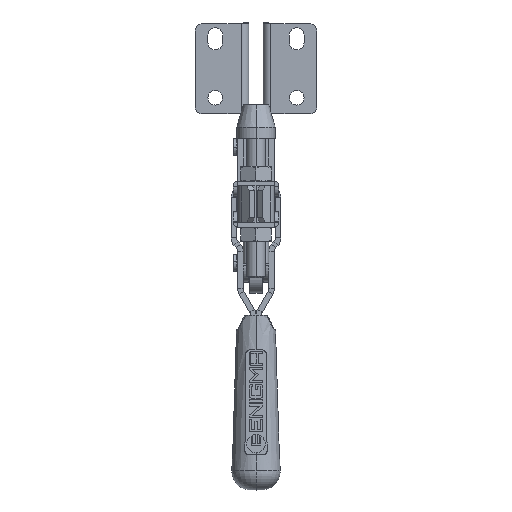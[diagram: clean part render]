
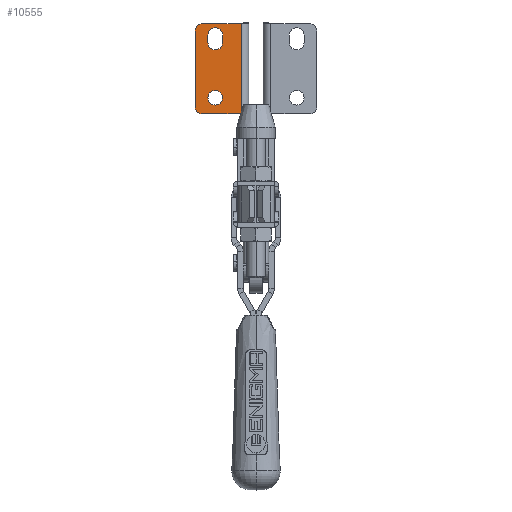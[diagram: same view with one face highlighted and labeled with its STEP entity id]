
A CAD part, left-side view. The second image highlights one B-rep face of the part: STEP entity #10555.
In plain terms, the highlighted planar face has unit normal (-1, 0, 0) as drawn and (0, 0, 1) by its records, which use the part's own axes.
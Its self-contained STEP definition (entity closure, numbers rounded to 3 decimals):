
#99 = CARTESIAN_POINT ( 'NONE',  ( -4., 22.144, -24.6 ) ) ;
#214 = DIRECTION ( 'NONE',  ( 0., 1., 0. ) ) ;
#1074 = CARTESIAN_POINT ( 'NONE',  ( 34.8, 15.144, -24.6 ) ) ;
#1305 = VERTEX_POINT ( 'NONE', #29567 ) ;
#1386 = DIRECTION ( 'NONE',  ( 0., 0., -1. ) ) ;
#1966 = CIRCLE ( 'NONE', #16958, 4. ) ;
#2103 = LINE ( 'NONE', #99, #16761 ) ;
#2202 = VERTEX_POINT ( 'NONE', #10442 ) ;
#2275 = FACE_OUTER_BOUND ( 'NONE', #24023, .T. ) ;
#2363 = LINE ( 'NONE', #11606, #15462 ) ;
#2581 = CIRCLE ( 'NONE', #3531, 4. ) ;
#3370 = DIRECTION ( 'NONE',  ( -1., 0., 0. ) ) ;
#3407 = DIRECTION ( 'NONE',  ( 0., -1., 0. ) ) ;
#3531 = AXIS2_PLACEMENT_3D ( 'NONE', #10164, #5645, #7896 ) ;
#3569 = CIRCLE ( 'NONE', #28829, 4. ) ;
#3602 = EDGE_LOOP ( 'NONE', ( #27143, #20244 ) ) ;
#4226 = CIRCLE ( 'NONE', #18759, 4. ) ;
#4270 = VERTEX_POINT ( 'NONE', #11280 ) ;
#5070 = CARTESIAN_POINT ( 'NONE',  ( 0., 26.144, -24.6 ) ) ;
#5086 = VERTEX_POINT ( 'NONE', #28017 ) ;
#5388 = ORIENTED_EDGE ( 'NONE', *, *, #21823, .F. ) ;
#5593 = AXIS2_PLACEMENT_3D ( 'NONE', #24017, #19420, #28710 ) ;
#5631 = ORIENTED_EDGE ( 'NONE', *, *, #24451, .T. ) ;
#5645 = DIRECTION ( 'NONE',  ( 0., 0., -1. ) ) ;
#5733 = DIRECTION ( 'NONE',  ( 1., 0., 0. ) ) ;
#6894 = LINE ( 'NONE', #5070, #9750 ) ;
#6992 = AXIS2_PLACEMENT_3D ( 'NONE', #7814, #16759, #3407 ) ;
#7028 = ORIENTED_EDGE ( 'NONE', *, *, #16288, .F. ) ;
#7814 = CARTESIAN_POINT ( 'NONE',  ( 41., 22.144, -24.6 ) ) ;
#7896 = DIRECTION ( 'NONE',  ( 0., 1., 0. ) ) ;
#8350 = EDGE_CURVE ( 'NONE', #5086, #19004, #4226, .T. ) ;
#8545 = VERTEX_POINT ( 'NONE', #22049 ) ;
#8634 = ORIENTED_EDGE ( 'NONE', *, *, #16687, .T. ) ;
#9703 = CARTESIAN_POINT ( 'NONE',  ( 45., 1., -24.6 ) ) ;
#9750 = VECTOR ( 'NONE', #14134, 1000. ) ;
#10164 = CARTESIAN_POINT ( 'NONE',  ( 0., 22.144, -24.6 ) ) ;
#10175 = EDGE_CURVE ( 'NONE', #8545, #29382, #6894, .T. ) ;
#10351 = EDGE_CURVE ( 'NONE', #20643, #4270, #10415, .T. ) ;
#10415 = CIRCLE ( 'NONE', #5593, 4. ) ;
#10442 = CARTESIAN_POINT ( 'NONE',  ( -4., 1., -24.6 ) ) ;
#10555 = ADVANCED_FACE ( 'NONE', ( #2275, #11521, #11971 ), #21192, .F. ) ;
#10859 = EDGE_CURVE ( 'NONE', #29382, #29272, #15621, .T. ) ;
#11099 = EDGE_CURVE ( 'NONE', #15795, #8545, #2581, .T. ) ;
#11128 = ORIENTED_EDGE ( 'NONE', *, *, #10175, .F. ) ;
#11280 = CARTESIAN_POINT ( 'NONE',  ( 38.8, 11.144, -24.6 ) ) ;
#11515 = DIRECTION ( 'NONE',  ( 0., 1., 0. ) ) ;
#11521 = FACE_BOUND ( 'NONE', #3602, .T. ) ;
#11606 = CARTESIAN_POINT ( 'NONE',  ( 34.8, 11.144, -24.6 ) ) ;
#11966 = ORIENTED_EDGE ( 'NONE', *, *, #10351, .T. ) ;
#11971 = FACE_BOUND ( 'NONE', #18572, .T. ) ;
#12243 = CARTESIAN_POINT ( 'NONE',  ( 34.8, 19.144, -24.6 ) ) ;
#12386 = CARTESIAN_POINT ( 'NONE',  ( 34.8, 19.144, -24.6 ) ) ;
#12498 = VERTEX_POINT ( 'NONE', #12243 ) ;
#13511 = VECTOR ( 'NONE', #5733, 1000. ) ;
#14134 = DIRECTION ( 'NONE',  ( 1., 0., 0. ) ) ;
#14498 = DIRECTION ( 'NONE',  ( 0., 1., 0. ) ) ;
#14554 = ORIENTED_EDGE ( 'NONE', *, *, #14974, .T. ) ;
#14651 = DIRECTION ( 'NONE',  ( 0., 0., -1. ) ) ;
#14894 = LINE ( 'NONE', #24161, #26298 ) ;
#14974 = EDGE_CURVE ( 'NONE', #12498, #20643, #28783, .T. ) ;
#15462 = VECTOR ( 'NONE', #16176, 1000. ) ;
#15621 = CIRCLE ( 'NONE', #6992, 4. ) ;
#15795 = VERTEX_POINT ( 'NONE', #26568 ) ;
#16176 = DIRECTION ( 'NONE',  ( -1., 0., 0. ) ) ;
#16288 = EDGE_CURVE ( 'NONE', #29272, #26149, #25167, .T. ) ;
#16687 = EDGE_CURVE ( 'NONE', #4270, #1305, #2363, .T. ) ;
#16759 = DIRECTION ( 'NONE',  ( 0., 0., -1. ) ) ;
#16761 = VECTOR ( 'NONE', #11515, 1000. ) ;
#16958 = AXIS2_PLACEMENT_3D ( 'NONE', #28495, #14651, #14498 ) ;
#16982 = CARTESIAN_POINT ( 'NONE',  ( 45., 22.144, -24.6 ) ) ;
#17802 = EDGE_CURVE ( 'NONE', #19004, #5086, #1966, .T. ) ;
#17849 = ORIENTED_EDGE ( 'NONE', *, *, #10859, .F. ) ;
#18572 = EDGE_LOOP ( 'NONE', ( #8634, #5631, #14554, #11966 ) ) ;
#18759 = AXIS2_PLACEMENT_3D ( 'NONE', #25721, #20990, #214 ) ;
#19004 = VERTEX_POINT ( 'NONE', #20620 ) ;
#19420 = DIRECTION ( 'NONE',  ( 0., 0., -1. ) ) ;
#19564 = CARTESIAN_POINT ( 'NONE',  ( 41., 26.144, -24.6 ) ) ;
#19791 = CARTESIAN_POINT ( 'NONE',  ( 38.8, 19.144, -24.6 ) ) ;
#20244 = ORIENTED_EDGE ( 'NONE', *, *, #8350, .T. ) ;
#20620 = CARTESIAN_POINT ( 'NONE',  ( 4.8, 19.144, -24.6 ) ) ;
#20643 = VERTEX_POINT ( 'NONE', #19791 ) ;
#20990 = DIRECTION ( 'NONE',  ( 0., 0., -1. ) ) ;
#21165 = ORIENTED_EDGE ( 'NONE', *, *, #27408, .F. ) ;
#21192 = PLANE ( 'NONE',  #29257 ) ;
#21823 = EDGE_CURVE ( 'NONE', #26149, #2202, #14894, .T. ) ;
#22049 = CARTESIAN_POINT ( 'NONE',  ( 0., 26.144, -24.6 ) ) ;
#22258 = ORIENTED_EDGE ( 'NONE', *, *, #11099, .F. ) ;
#22736 = DIRECTION ( 'NONE',  ( 0., -1., 0. ) ) ;
#23321 = CARTESIAN_POINT ( 'NONE',  ( 45., -2.675, -24.6 ) ) ;
#24017 = CARTESIAN_POINT ( 'NONE',  ( 38.8, 15.144, -24.6 ) ) ;
#24023 = EDGE_LOOP ( 'NONE', ( #5388, #7028, #17849, #11128, #22258, #21165 ) ) ;
#24161 = CARTESIAN_POINT ( 'NONE',  ( -38.992, 1., -24.6 ) ) ;
#24451 = EDGE_CURVE ( 'NONE', #1305, #12498, #3569, .T. ) ;
#24799 = VECTOR ( 'NONE', #22736, 1000. ) ;
#25167 = LINE ( 'NONE', #23321, #24799 ) ;
#25326 = DIRECTION ( 'NONE',  ( 0., 0., -1. ) ) ;
#25721 = CARTESIAN_POINT ( 'NONE',  ( 4.8, 15.144, -24.6 ) ) ;
#25932 = DIRECTION ( 'NONE',  ( 0., 1., 0. ) ) ;
#26149 = VERTEX_POINT ( 'NONE', #9703 ) ;
#26298 = VECTOR ( 'NONE', #3370, 1000. ) ;
#26568 = CARTESIAN_POINT ( 'NONE',  ( -4., 22.144, -24.6 ) ) ;
#27143 = ORIENTED_EDGE ( 'NONE', *, *, #17802, .T. ) ;
#27408 = EDGE_CURVE ( 'NONE', #2202, #15795, #2103, .T. ) ;
#28017 = CARTESIAN_POINT ( 'NONE',  ( 4.8, 11.144, -24.6 ) ) ;
#28364 = CARTESIAN_POINT ( 'NONE',  ( -38.992, -9.356, -24.6 ) ) ;
#28495 = CARTESIAN_POINT ( 'NONE',  ( 4.8, 15.144, -24.6 ) ) ;
#28710 = DIRECTION ( 'NONE',  ( 0., 1., 0. ) ) ;
#28783 = LINE ( 'NONE', #12386, #13511 ) ;
#28829 = AXIS2_PLACEMENT_3D ( 'NONE', #1074, #1386, #29161 ) ;
#29161 = DIRECTION ( 'NONE',  ( 0., 1., 0. ) ) ;
#29257 = AXIS2_PLACEMENT_3D ( 'NONE', #28364, #25326, #25932 ) ;
#29272 = VERTEX_POINT ( 'NONE', #16982 ) ;
#29382 = VERTEX_POINT ( 'NONE', #19564 ) ;
#29567 = CARTESIAN_POINT ( 'NONE',  ( 34.8, 11.144, -24.6 ) ) ;
